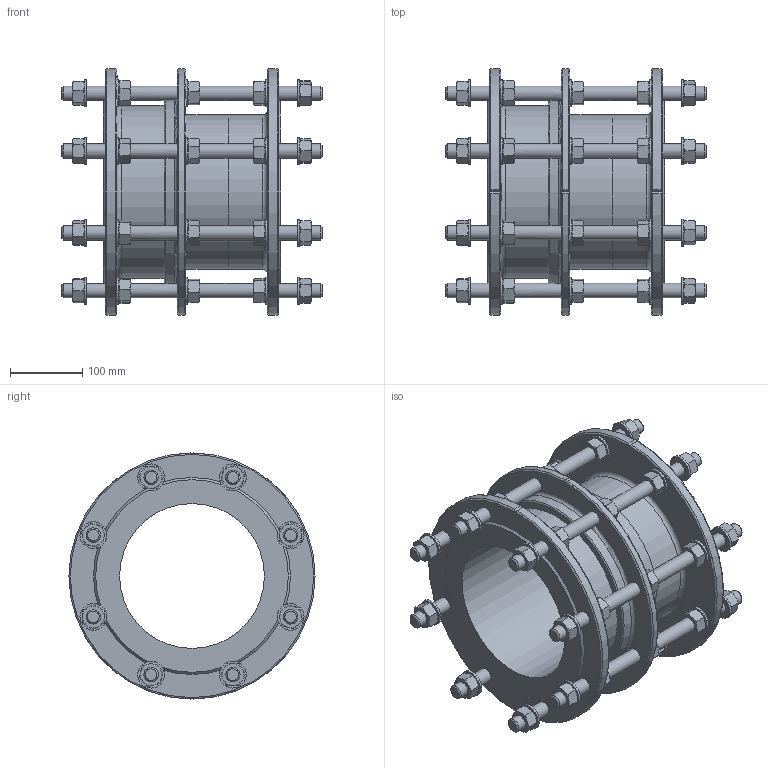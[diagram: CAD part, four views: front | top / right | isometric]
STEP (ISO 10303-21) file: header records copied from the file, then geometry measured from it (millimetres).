
FILE_DESCRIPTION (( 'STEP AP203' ), '1' );
FILE_NAME ('O_265_911_DN200_0XXXXX01_L=245_REV01.step', '2024-12-12T07:48:27', ( '' ), ( '' ), 'SwSTEP 2.0', 'SolidWorks 2022', '' );
FILE_SCHEMA (( 'CONFIG_CONTROL_DESIGN' ));
Length unit declared in the file: millimetre
Products named in the file (1): O_265_911_DN200_0XXXXX01_L=245_REV01
Bounding box: 360 x 340 x 339.96 mm (x, y, z)
Volume: 5681641.6 mm3; surface area: 857442.3 mm2
Topology: 1 solids, 1 shells, 1027 faces, 2281 edges, 1371 vertices
Faces by surface type: cone 499, plane 412, cylinder 100, torus 16
Full cylindrical faces by diameter (mm): 20 x48, 37 x40, 200 x1, 213 x2, 239 x1
Entity records: 31436 total; most frequent: CARTESIAN_POINT 10955, ORIENTED_EDGE 4210, DIRECTION 3893, EDGE_CURVE 2105, AXIS2_PLACEMENT_3D 1752, VERTEX_POINT 1310, EDGE_LOOP 1291, FACE_OUTER_BOUND 1123
